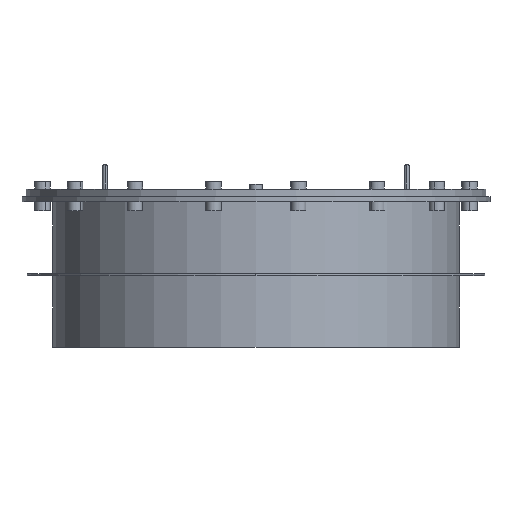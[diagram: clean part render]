
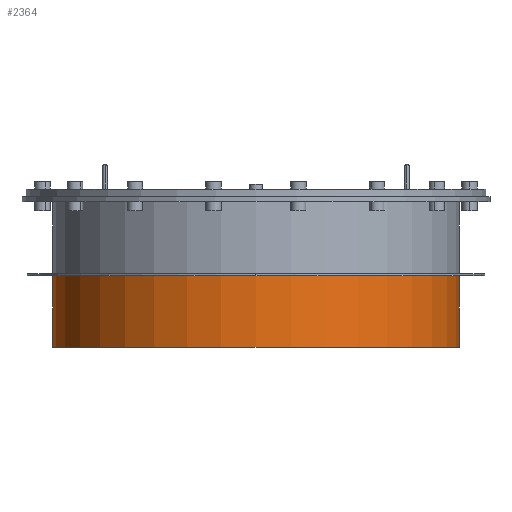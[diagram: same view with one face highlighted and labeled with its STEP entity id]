
A CAD part, front view. The second image highlights one B-rep face of the part: STEP entity #2364.
In plain terms, the highlighted cylindrical face has radius 404 mm (diameter 808 mm), a partial arc.
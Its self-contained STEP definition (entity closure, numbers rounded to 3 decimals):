
#319=DIRECTION('',(0.,0.,-1.));
#320=VECTOR('',#319,143.);
#321=CARTESIAN_POINT('',(404.,0.,-157.));
#322=LINE('',#321,#320);
#365=CARTESIAN_POINT('',(0.,0.,-157.));
#366=DIRECTION('',(0.,0.,1.));
#367=DIRECTION('',(-1.,0.,0.));
#368=AXIS2_PLACEMENT_3D('',#365,#366,#367);
#370=DIRECTION('',(0.,0.,-1.));
#371=VECTOR('',#370,143.);
#372=CARTESIAN_POINT('',(-404.,0.,-157.));
#373=LINE('',#372,#371);
#403=CARTESIAN_POINT('',(0.,0.,-300.));
#404=DIRECTION('',(0.,0.,1.));
#405=DIRECTION('',(-1.,0.,0.));
#406=AXIS2_PLACEMENT_3D('',#403,#404,#405);
#1712=CARTESIAN_POINT('',(404.,0.,-300.));
#1713=CARTESIAN_POINT('',(-404.,0.,-300.));
#1714=VERTEX_POINT('',#1712);
#1715=VERTEX_POINT('',#1713);
#1736=CARTESIAN_POINT('',(404.,0.,-157.));
#1737=CARTESIAN_POINT('',(-404.,0.,-157.));
#1738=VERTEX_POINT('',#1736);
#1739=VERTEX_POINT('',#1737);
#2352=CARTESIAN_POINT('',(0.,0.,0.));
#2353=DIRECTION('',(0.,0.,1.));
#2354=DIRECTION('',(1.,0.,0.));
#2355=AXIS2_PLACEMENT_3D('',#2352,#2353,#2354);
#2356=CYLINDRICAL_SURFACE('',#2355,404.);
#2357=ORIENTED_EDGE('',*,*,#2304,.T.);
#2358=ORIENTED_EDGE('',*,*,#2258,.T.);
#2360=ORIENTED_EDGE('',*,*,#2359,.F.);
#2361=ORIENTED_EDGE('',*,*,#2254,.F.);
#2362=EDGE_LOOP('',(#2357,#2358,#2360,#2361));
#2363=FACE_OUTER_BOUND('',#2362,.F.);
#369=CIRCLE('',#368,404.);
#407=CIRCLE('',#406,404.);
#2254=EDGE_CURVE('',#1739,#1715,#373,.T.);
#2258=EDGE_CURVE('',#1738,#1714,#322,.T.);
#2304=EDGE_CURVE('',#1739,#1738,#369,.T.);
#2359=EDGE_CURVE('',#1715,#1714,#407,.T.);
#2364=ADVANCED_FACE('',(#2363),#2356,.T.);
